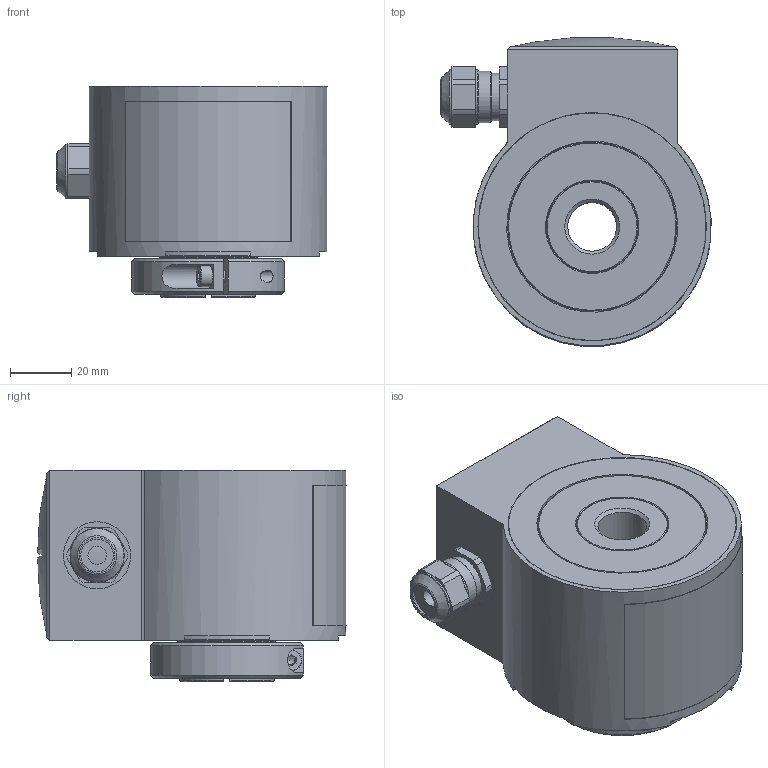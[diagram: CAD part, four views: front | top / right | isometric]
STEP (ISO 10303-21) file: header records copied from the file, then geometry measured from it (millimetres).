
FILE_DESCRIPTION (( 'STEP AP214' ), '1' );
FILE_NAME ('HW730 16mm.STEP', '2012-06-21T05:58:31', ( 'Camille Bauer AG' ), ( '' ), 'SwSTEP 2.0', 'SolidWorks 2010', '' );
FILE_SCHEMA (( 'AUTOMOTIVE_DESIGN' ));
Length unit declared in the file: millimetre
Products named in the file (1): HW730 16mm
Bounding box: 88.41 x 100.97 x 69.2 mm (x, y, z)
Volume: 350465.1 mm3; surface area: 99013 mm2
Topology: 10 solids, 12 shells, 285 faces, 671 edges, 436 vertices
Faces by surface type: plane 131, cylinder 80, cone 66, bspline 6, sphere 1, torus 1
Full cylindrical faces by diameter (mm): 3.3 x6, 4 x3, 6 x1, 7 x1, 10.7 x1, 12 x1, 12.1 x1, 13.5 x1, 13.93 x1, 14.5 x1, 15.59 x1, 16 x3, 16.2 x1, 16.79 x1, 17.8 x2, 22 x1, 29 x1, 30 x2, 30.07 x1, 30.2 x1, 32.025 x2, 32.072 x2, 32.08 x1, 35 x1, 35.003 x1, 44 x1, 45 x1, 51.5 x1, 52 x1, 55.4 x2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
Entity records: 11627 total; most frequent: CARTESIAN_POINT 2375, DIRECTION 1261, ORIENTED_EDGE 1074, EDGE_CURVE 537, AXIS2_PLACEMENT_3D 524, EDGE_LOOP 426, VERTEX_POINT 399, FACE_OUTER_BOUND 340
